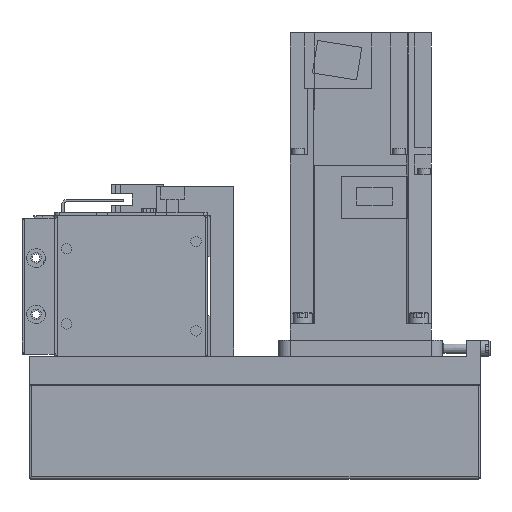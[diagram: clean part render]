
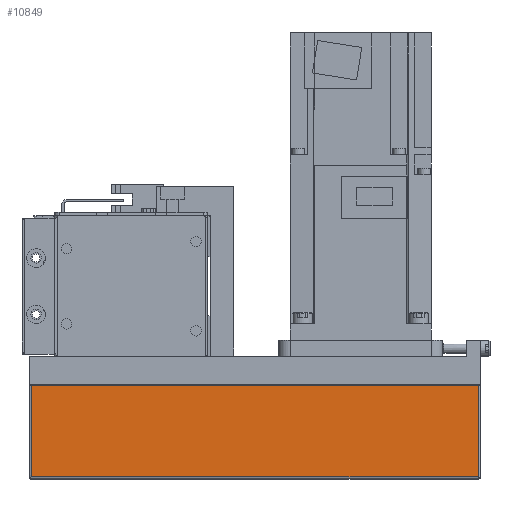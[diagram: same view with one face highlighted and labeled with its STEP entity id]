
A CAD part, left-side view. The second image highlights one B-rep face of the part: STEP entity #10849.
In plain terms, the highlighted planar face has unit normal (-1, 0, 0) as drawn and (1, 0, 0) by its records, which use the part's own axes.
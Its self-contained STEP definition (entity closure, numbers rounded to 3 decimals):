
#2522=ORIENTED_EDGE('',*,*,#4591,.T.);
#2523=ORIENTED_EDGE('',*,*,#4592,.T.);
#2524=ORIENTED_EDGE('',*,*,#4593,.F.);
#2525=ORIENTED_EDGE('',*,*,#4594,.F.);
#4591=EDGE_CURVE('',#5814,#5815,#6854,.T.);
#4592=EDGE_CURVE('',#5815,#5816,#6855,.T.);
#4593=EDGE_CURVE('',#5817,#5816,#6856,.T.);
#4594=EDGE_CURVE('',#5814,#5817,#6857,.T.);
#5814=VERTEX_POINT('',#17407);
#5815=VERTEX_POINT('',#17408);
#5816=VERTEX_POINT('',#17410);
#5817=VERTEX_POINT('',#17412);
#6854=LINE('',#17406,#7902);
#6855=LINE('',#17409,#7903);
#6856=LINE('',#17411,#7904);
#6857=LINE('',#17413,#7905);
#7902=VECTOR('',#14223,1000.);
#7903=VECTOR('',#14224,1000.);
#7904=VECTOR('',#14225,1000.);
#7905=VECTOR('',#14226,1000.);
#8897=EDGE_LOOP('',(#2522,#2523,#2524,#2525));
#9771=FACE_BOUND('',#8897,.T.);
#10319=PLANE('',#11835);
#10849=ADVANCED_FACE('',(#9771),#10319,.T.);
#11835=AXIS2_PLACEMENT_3D('',#17405,#14221,#14222);
#14221=DIRECTION('',(1.,0.,0.));
#14222=DIRECTION('',(0.,0.,-1.));
#14223=DIRECTION('',(0.,0.,1.));
#14224=DIRECTION('',(0.,-1.,0.));
#14225=DIRECTION('',(0.,0.,1.));
#14226=DIRECTION('',(0.,-1.,0.));
#17405=CARTESIAN_POINT('',(40.,-41.,-52.));
#17406=CARTESIAN_POINT('',(40.,150.,-64.));
#17407=CARTESIAN_POINT('',(40.,150.,-51.));
#17408=CARTESIAN_POINT('',(40.,150.,-12.01));
#17409=CARTESIAN_POINT('',(40.,-41.,-12.01));
#17410=CARTESIAN_POINT('',(40.,-40.,-12.01));
#17411=CARTESIAN_POINT('',(40.,-40.,-64.));
#17412=CARTESIAN_POINT('',(40.,-40.,-51.));
#17413=CARTESIAN_POINT('',(40.,200.,-51.));
